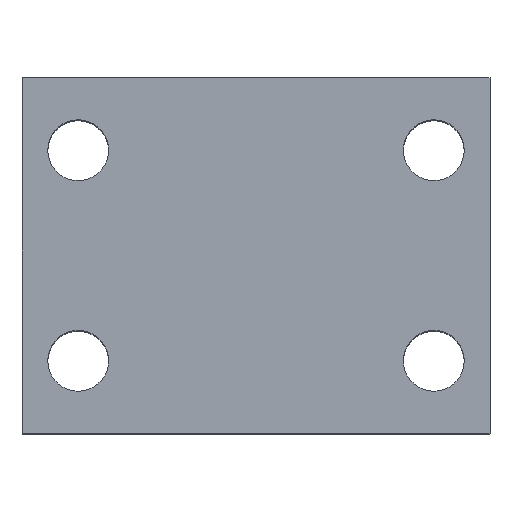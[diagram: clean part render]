
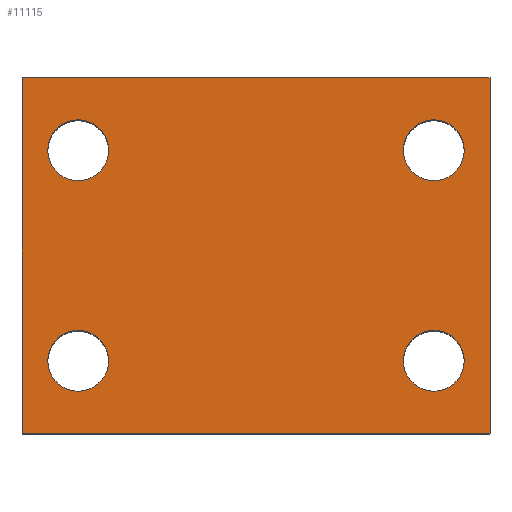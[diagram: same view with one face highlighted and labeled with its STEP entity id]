
A CAD part, top view. The second image highlights one B-rep face of the part: STEP entity #11115.
In plain terms, the highlighted planar face has unit normal (0, 0, 1).
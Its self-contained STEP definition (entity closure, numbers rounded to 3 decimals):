
#95 = CARTESIAN_POINT ( 'NONE',  ( -50., 76., 47.5 ) ) ;
#99 = CARTESIAN_POINT ( 'NONE',  ( 38., 60.5, 47.5 ) ) ;
#406 = CARTESIAN_POINT ( 'NONE',  ( -50., 0., 47.5 ) ) ;
#453 = AXIS2_PLACEMENT_3D ( 'NONE', #2714, #12210, #4171 ) ;
#536 = CIRCLE ( 'NONE', #7612, 6.5 ) ;
#574 = DIRECTION ( 'NONE',  ( 0., 0., -1. ) ) ;
#739 = DIRECTION ( 'NONE',  ( 0., 0., -1. ) ) ;
#768 = ORIENTED_EDGE ( 'NONE', *, *, #11979, .T. ) ;
#897 = FACE_BOUND ( 'NONE', #16913, .T. ) ;
#1251 = ORIENTED_EDGE ( 'NONE', *, *, #9836, .T. ) ;
#1274 = EDGE_CURVE ( 'NONE', #17143, #8212, #10179, .T. ) ;
#1487 = DIRECTION ( 'NONE',  ( 1., 0., 0. ) ) ;
#1490 = DIRECTION ( 'NONE',  ( -1., 0., 0. ) ) ;
#1512 = CARTESIAN_POINT ( 'NONE',  ( -50., 0., 47.5 ) ) ;
#2714 = CARTESIAN_POINT ( 'NONE',  ( 38., 15.5, 47.5 ) ) ;
#2870 = EDGE_CURVE ( 'NONE', #15712, #8622, #11729, .T. ) ;
#2941 = CARTESIAN_POINT ( 'NONE',  ( 50., 0., 47.5 ) ) ;
#3161 = DIRECTION ( 'NONE',  ( 0., 0., -1. ) ) ;
#3243 = ORIENTED_EDGE ( 'NONE', *, *, #4539, .T. ) ;
#3452 = LINE ( 'NONE', #1512, #6309 ) ;
#3588 = CARTESIAN_POINT ( 'NONE',  ( 38., 15.5, 47.5 ) ) ;
#3684 = CARTESIAN_POINT ( 'NONE',  ( 44.5, 60.5, 47.5 ) ) ;
#3759 = EDGE_CURVE ( 'NONE', #7340, #6396, #12957, .T. ) ;
#4051 = CARTESIAN_POINT ( 'NONE',  ( -38., 60.5, 47.5 ) ) ;
#4067 = VECTOR ( 'NONE', #1487, 1000. ) ;
#4121 = DIRECTION ( 'NONE',  ( 0., 0., -1. ) ) ;
#4171 = DIRECTION ( 'NONE',  ( -1., 0., 0. ) ) ;
#4173 = EDGE_CURVE ( 'NONE', #11718, #7006, #15948, .T. ) ;
#4179 = DIRECTION ( 'NONE',  ( -1., 0., 0. ) ) ;
#4238 = ORIENTED_EDGE ( 'NONE', *, *, #3759, .T. ) ;
#4539 = EDGE_CURVE ( 'NONE', #6396, #4552, #3452, .T. ) ;
#4540 = AXIS2_PLACEMENT_3D ( 'NONE', #11279, #3161, #12612 ) ;
#4552 = VERTEX_POINT ( 'NONE', #2941 ) ;
#4658 = AXIS2_PLACEMENT_3D ( 'NONE', #3588, #13013, #5038 ) ;
#4702 = VECTOR ( 'NONE', #7677, 1000. ) ;
#4947 = CIRCLE ( 'NONE', #453, 6.5 ) ;
#5038 = DIRECTION ( 'NONE',  ( -1., 0., 0. ) ) ;
#5824 = AXIS2_PLACEMENT_3D ( 'NONE', #15278, #7278, #16716 ) ;
#5861 = EDGE_LOOP ( 'NONE', ( #3243, #8286, #10049, #4238 ) ) ;
#5891 = DIRECTION ( 'NONE',  ( 0., -1., 0. ) ) ;
#5909 = CARTESIAN_POINT ( 'NONE',  ( -44.5, 15.5, 47.5 ) ) ;
#6309 = VECTOR ( 'NONE', #8438, 1000. ) ;
#6396 = VERTEX_POINT ( 'NONE', #406 ) ;
#6481 = CARTESIAN_POINT ( 'NONE',  ( -38., 15.5, 47.5 ) ) ;
#6756 = CARTESIAN_POINT ( 'NONE',  ( -31.5, 15.5, 47.5 ) ) ;
#6799 = VERTEX_POINT ( 'NONE', #11114 ) ;
#7006 = VERTEX_POINT ( 'NONE', #6756 ) ;
#7278 = DIRECTION ( 'NONE',  ( 0., 0., -1. ) ) ;
#7340 = VERTEX_POINT ( 'NONE', #17169 ) ;
#7612 = AXIS2_PLACEMENT_3D ( 'NONE', #99, #9726, #1490 ) ;
#7677 = DIRECTION ( 'NONE',  ( 0., -1., 0. ) ) ;
#7817 = DIRECTION ( 'NONE',  ( -1., 0., 0. ) ) ;
#7979 = CARTESIAN_POINT ( 'NONE',  ( -50., 76., 47.5 ) ) ;
#8212 = VERTEX_POINT ( 'NONE', #12620 ) ;
#8286 = ORIENTED_EDGE ( 'NONE', *, *, #11072, .F. ) ;
#8305 = LINE ( 'NONE', #12954, #4702 ) ;
#8438 = DIRECTION ( 'NONE',  ( 1., 0., 0. ) ) ;
#8592 = CARTESIAN_POINT ( 'NONE',  ( -50., 76., 47.5 ) ) ;
#8622 = VERTEX_POINT ( 'NONE', #16823 ) ;
#8751 = CARTESIAN_POINT ( 'NONE',  ( 31.5, 60.5, 47.5 ) ) ;
#8851 = ORIENTED_EDGE ( 'NONE', *, *, #1274, .T. ) ;
#8859 = CARTESIAN_POINT ( 'NONE',  ( 38., 60.5, 47.5 ) ) ;
#9041 = AXIS2_PLACEMENT_3D ( 'NONE', #7979, #739, #9302 ) ;
#9302 = DIRECTION ( 'NONE',  ( -1., 0., 0. ) ) ;
#9458 = VERTEX_POINT ( 'NONE', #8751 ) ;
#9551 = CARTESIAN_POINT ( 'NONE',  ( 44.5, 15.5, 47.5 ) ) ;
#9609 = AXIS2_PLACEMENT_3D ( 'NONE', #6481, #15842, #7817 ) ;
#9616 = EDGE_LOOP ( 'NONE', ( #15456, #768 ) ) ;
#9726 = DIRECTION ( 'NONE',  ( 0., 0., -1. ) ) ;
#9836 = EDGE_CURVE ( 'NONE', #8622, #15712, #4947, .T. ) ;
#10049 = ORIENTED_EDGE ( 'NONE', *, *, #16974, .F. ) ;
#10179 = CIRCLE ( 'NONE', #11052, 6.5 ) ;
#10192 = DIRECTION ( 'NONE',  ( -1., 0., 0. ) ) ;
#11052 = AXIS2_PLACEMENT_3D ( 'NONE', #4051, #4121, #4179 ) ;
#11072 = EDGE_CURVE ( 'NONE', #6799, #4552, #8305, .T. ) ;
#11114 = CARTESIAN_POINT ( 'NONE',  ( 50., 76., 47.5 ) ) ;
#11115 = ADVANCED_FACE ( 'NONE', ( #897, #11800, #11403, #14984, #15405 ), #14293, .F. ) ;
#11226 = LINE ( 'NONE', #95, #4067 ) ;
#11263 = EDGE_LOOP ( 'NONE', ( #1251, #15287 ) ) ;
#11279 = CARTESIAN_POINT ( 'NONE',  ( -38., 60.5, 47.5 ) ) ;
#11403 = FACE_BOUND ( 'NONE', #11263, .T. ) ;
#11718 = VERTEX_POINT ( 'NONE', #5909 ) ;
#11729 = CIRCLE ( 'NONE', #4658, 6.5 ) ;
#11800 = FACE_BOUND ( 'NONE', #9616, .T. ) ;
#11979 = EDGE_CURVE ( 'NONE', #7006, #11718, #13040, .T. ) ;
#12210 = DIRECTION ( 'NONE',  ( 0., 0., -1. ) ) ;
#12612 = DIRECTION ( 'NONE',  ( -1., 0., 0. ) ) ;
#12620 = CARTESIAN_POINT ( 'NONE',  ( -44.5, 60.5, 47.5 ) ) ;
#12724 = CARTESIAN_POINT ( 'NONE',  ( -31.5, 60.5, 47.5 ) ) ;
#12933 = EDGE_LOOP ( 'NONE', ( #16180, #13315 ) ) ;
#12954 = CARTESIAN_POINT ( 'NONE',  ( 50., 76., 47.5 ) ) ;
#12957 = LINE ( 'NONE', #8592, #16665 ) ;
#13013 = DIRECTION ( 'NONE',  ( 0., 0., -1. ) ) ;
#13040 = CIRCLE ( 'NONE', #9609, 6.5 ) ;
#13315 = ORIENTED_EDGE ( 'NONE', *, *, #13321, .T. ) ;
#13321 = EDGE_CURVE ( 'NONE', #16442, #9458, #13656, .T. ) ;
#13529 = CIRCLE ( 'NONE', #4540, 6.5 ) ;
#13656 = CIRCLE ( 'NONE', #16165, 6.5 ) ;
#14293 = PLANE ( 'NONE',  #9041 ) ;
#14984 = FACE_BOUND ( 'NONE', #12933, .T. ) ;
#15278 = CARTESIAN_POINT ( 'NONE',  ( -38., 15.5, 47.5 ) ) ;
#15287 = ORIENTED_EDGE ( 'NONE', *, *, #2870, .T. ) ;
#15405 = FACE_OUTER_BOUND ( 'NONE', #5861, .T. ) ;
#15451 = EDGE_CURVE ( 'NONE', #9458, #16442, #536, .T. ) ;
#15456 = ORIENTED_EDGE ( 'NONE', *, *, #4173, .T. ) ;
#15712 = VERTEX_POINT ( 'NONE', #9551 ) ;
#15842 = DIRECTION ( 'NONE',  ( 0., 0., -1. ) ) ;
#15948 = CIRCLE ( 'NONE', #5824, 6.5 ) ;
#16018 = EDGE_CURVE ( 'NONE', #8212, #17143, #13529, .T. ) ;
#16165 = AXIS2_PLACEMENT_3D ( 'NONE', #8859, #574, #10192 ) ;
#16180 = ORIENTED_EDGE ( 'NONE', *, *, #15451, .T. ) ;
#16442 = VERTEX_POINT ( 'NONE', #3684 ) ;
#16665 = VECTOR ( 'NONE', #5891, 1000. ) ;
#16716 = DIRECTION ( 'NONE',  ( -1., 0., 0. ) ) ;
#16823 = CARTESIAN_POINT ( 'NONE',  ( 31.5, 15.5, 47.5 ) ) ;
#16913 = EDGE_LOOP ( 'NONE', ( #16986, #8851 ) ) ;
#16974 = EDGE_CURVE ( 'NONE', #7340, #6799, #11226, .T. ) ;
#16986 = ORIENTED_EDGE ( 'NONE', *, *, #16018, .T. ) ;
#17143 = VERTEX_POINT ( 'NONE', #12724 ) ;
#17169 = CARTESIAN_POINT ( 'NONE',  ( -50., 76., 47.5 ) ) ;
